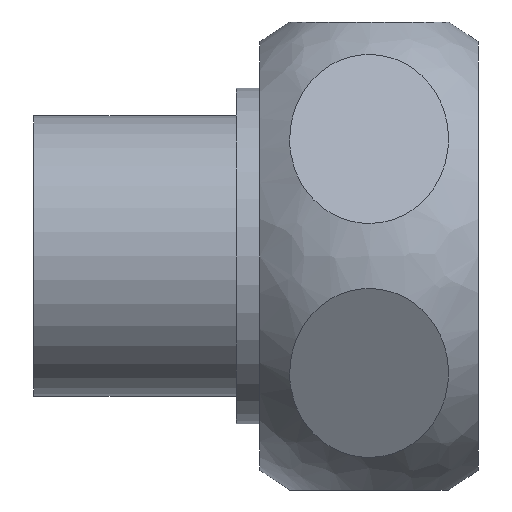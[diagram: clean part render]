
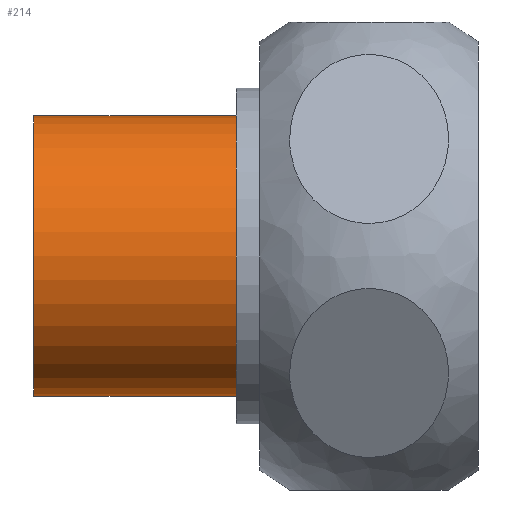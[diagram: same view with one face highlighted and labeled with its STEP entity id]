
A CAD part, front view. The second image highlights one B-rep face of the part: STEP entity #214.
In plain terms, the highlighted cylindrical face has radius 9 mm (diameter 18 mm), a full revolution.
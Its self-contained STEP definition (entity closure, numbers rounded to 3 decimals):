
#180=CARTESIAN_POINT('',(0.,9.0,0.0));
#181=VERTEX_POINT('',#180);
#182=CARTESIAN_POINT('',(0.0,0.0,0.0));
#183=DIRECTION('',(1.0,0.0,0.0));
#184=DIRECTION('',(0.0,1.0,0.0));
#185=AXIS2_PLACEMENT_3D('',#182,#183,#184);
#186=CIRCLE('',#185,9.0);
#187=EDGE_CURVE('',#181,#181,#186,.T.);
#195=CARTESIAN_POINT('',(6.5,0.0,0.0));
#196=DIRECTION('',(1.0,0.0,0.0));
#197=DIRECTION('',(0.0,1.0,0.0));
#198=AXIS2_PLACEMENT_3D('',#195,#196,#197);
#199=CYLINDRICAL_SURFACE('',#198,9.0);
#200=CARTESIAN_POINT('',(13.,9.0,0.0));
#201=VERTEX_POINT('',#200);
#202=CARTESIAN_POINT('',(13.,0.0,0.0));
#203=DIRECTION('',(1.0,0.0,0.0));
#204=DIRECTION('',(0.0,1.0,0.0));
#205=AXIS2_PLACEMENT_3D('',#202,#203,#204);
#206=CIRCLE('',#205,9.0);
#207=EDGE_CURVE('',#201,#201,#206,.T.);
#208=ORIENTED_EDGE('',*,*,#207,.F.);
#209=EDGE_LOOP('',(#208));
#210=FACE_OUTER_BOUND('',#209,.T.);
#211=ORIENTED_EDGE('',*,*,#187,.T.);
#212=EDGE_LOOP('',(#211));
#213=FACE_BOUND('',#212,.T.);
#214=ADVANCED_FACE('',(#210,#213),#199,.T.);
